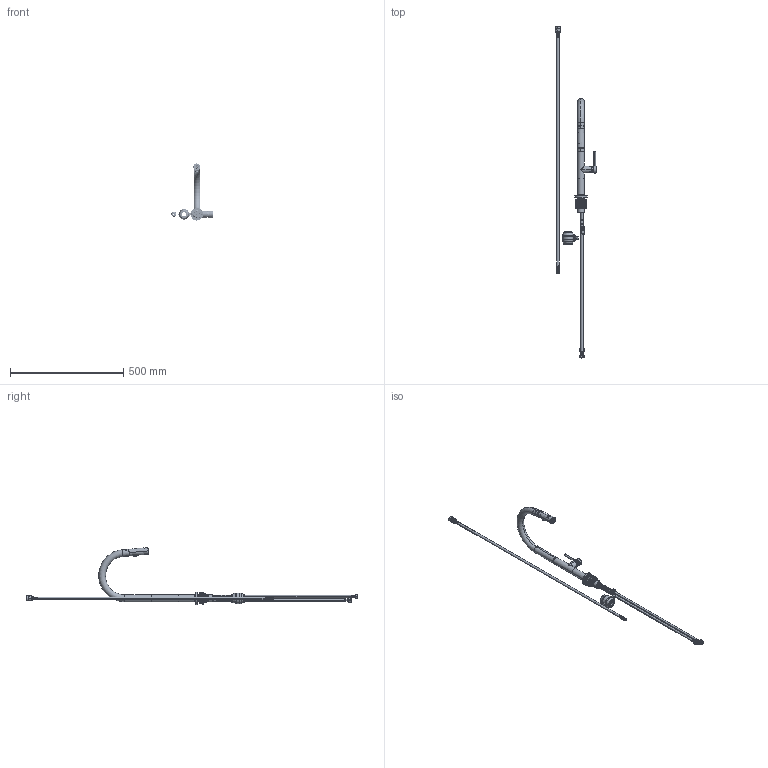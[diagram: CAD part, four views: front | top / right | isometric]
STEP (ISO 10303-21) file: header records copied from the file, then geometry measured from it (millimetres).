
FILE_DESCRIPTION((''),'2;1');
FILE_NAME('18153_ASM','2021-10-16T',('RD001'),(''),'PRO/ENGINEER BY PARAMETRIC TECHNOLOGY CORPORATION, 2011310','PRO/ENGINEER BY PARAMETRIC TECHNOLOGY CORPORATION, 2011310','');
FILE_SCHEMA(('CONFIG_CONTROL_DESIGN'));
Length unit declared in the file: millimetre
Products named in the file (72): 028002R_3_1; 008001S_9_1; 103003B_21_1; 104003B_18_1; 024010WZ_26_1; 107001B_54_1; 108001B_21_1; 033009B-1_63_1; 134010B_14_1; 134009B_24_1; 134008B_11_1; 033009B_ASM_45_ASM_1_ASM; 008004S_10_1; 207003P_17_1; 012006P_16_1; 004003R_14_1; 020009S-1_25_1; 020009S_ASM_24_ASM_1_ASM; 041005P_12_1; 088005R_10_1; 039002P_22_1; 034006B_19_1; 035004S_4_1; 080003R_12_1; 080005S_3_1; 054005B_2_1; 053002S_2_1; 041001P_4_1; H5RD4-6_6_1; H5RD4-3_5_1; H5RD4-4_5_1; H5RD4-0-RING-10X2_5_5_1; H5RD4-1_5_1; 134004P-1_6_1; 134005S-2_7_1; 134034P-22_1_1; 134034P_ASM_3_ASM_1_ASM; 134005S-1_9_1; 134005S-3_9_1; 134005S-5_9_1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
Assembly tree (79 placements, depth 7):
  18153_ASM
    FK111013_ASM-LDA_ASM_1_ASM
      FK111013_ASM_144_ASM_1_ASM
        028002R_3_1
        008001S_9_1
        103003B_21_1
        104003B_18_1
        024010WZ_26_1
        107001B_54_1
        108001B_21_1
        033009B_ASM_45_ASM_1_ASM
          033009B-1_63_1
          134010B_14_1
          134009B_24_1
          134008B_11_1
        008004S_10_1
        207003P_17_1
        012006P_16_1  x2
        004003R_14_1  x2
        020009S_ASM_24_ASM_1_ASM
          020009S-1_25_1
        041005P_12_1
        088005R_10_1
        039002P_22_1
        034006B_19_1
        035004S_4_1
        080003R_12_1  x2
        080005S_3_1
        054005B_2_1
        053002S_2_1  x2
        041001P_4_1
        134034P_ASM_3_ASM_1_ASM
          H5RD4-6_6_1
          H5RD4-3_5_1
          H5RD4-4_5_1
          H5RD4-0-RING-10X2_5_5_1
          H5RD4-1_5_1
          134004P-1_6_1
          134005S-2_7_1  x2
          134034P-22_1_1
        134024S_ASM_18_ASM_1_ASM  x2
          134005S-1_9_1
          134005S-3_9_1
          134005S-2_7_1
          134005S-5_9_1
          134005S-4_9_1
          134005S-6_7_1
          1-4_7_1
        200001R_6_1
        S112025P_ASM_3_ASM_1_ASM
          C02801-000_ASM_19_ASM_2_ASM_1_ASM
            C02801-020_AF2_3_ASM_1_ASM_1_ASM
              MANIFOLD_SOLID_BREP_202_1_1
              MANIFOLD_SOLID_BREP_502_1_1
            C02801-020_AF3_3_ASM_1_ASM_1_ASM
              MANIFOLD_SOLID_BREP_1134_1_1
              MANIFOLD_SOLID_BREP_1433_1_1
            C02801-008_AF1_2_1_1
            C02801-012_AF1_1_1_1
            C02801-009_AF1_1_1_1
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Bounding box: 182.62 x 1466.03 x 252.13 mm (x, y, z)
Volume: 446233.2 mm3; surface area: 429546.1 mm2
Topology: 73 solids, 75 shells, 4908 faces, 13009 edges, 8064 vertices
Faces by surface type: cylinder 1588, plane 1463, bspline 656, torus 644, cone 286, sphere 260, extrusion 11
Entity records: 169282 total; most frequent: CARTESIAN_POINT 71594, ORIENTED_EDGE 20900, DIRECTION 19662, EDGE_CURVE 10450, AXIS2_PLACEMENT_3D 7584, VERTEX_POINT 6710, VECTOR 4494, LINE 4483
